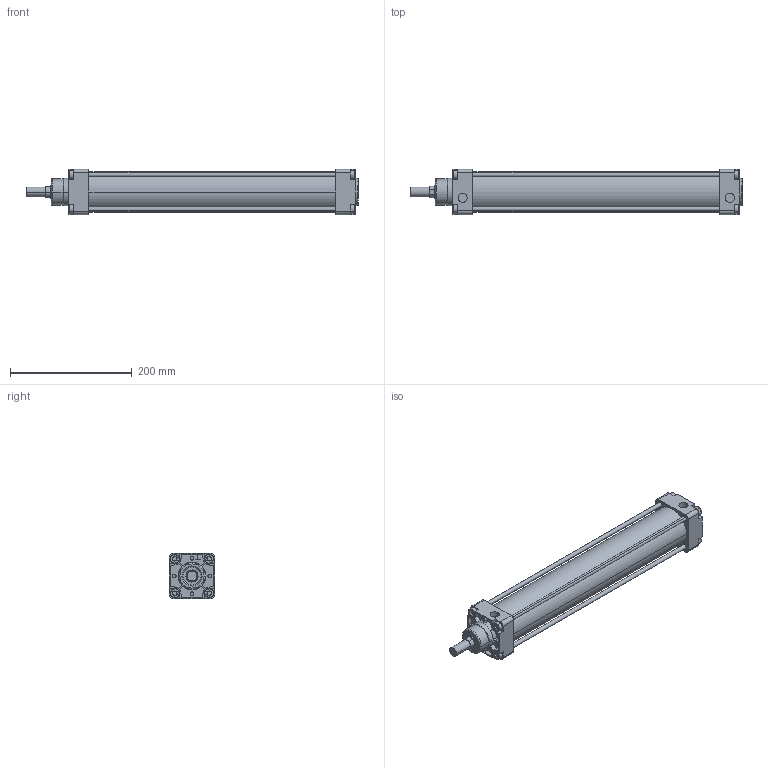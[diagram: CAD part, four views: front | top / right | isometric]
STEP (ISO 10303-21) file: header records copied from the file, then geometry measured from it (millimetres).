
FILE_DESCRIPTION(('CATIA V5 STEP Exchange'),'2;1');
FILE_NAME('D:\stp file for catalog\PNC\63\pnc 63-20-350.stp','2015-06-16T06:03:35+00:00',('none'),('none'),'Version 5-6 Release 2012','CATIA V5 STEP AP203','none');
FILE_SCHEMA(('CONFIG_CONTROL_DESIGN'));
Length unit declared in the file: millimetre
Products named in the file (1): pnc 63-20-350-00
Assembly tree (2 placements, depth 2):
  pnc 63-20-350-00
    #58
    #15151
Bounding box: 545.5 x 74.5 x 74.5 mm (x, y, z)
Volume: 872412.3 mm3; surface area: 316260.6 mm2
Topology: 6 solids, 6 shells, 572 faces, 1446 edges, 930 vertices
Faces by surface type: plane 356, cylinder 154, torus 26, cone 20, extrusion 16
Entity records: 15575 total; most frequent: CARTESIAN_POINT 3056, ORIENTED_EDGE 2892, DIRECTION 1926, EDGE_CURVE 1446, VECTOR 930, VERTEX_POINT 930, LINE 914, AXIS2_PLACEMENT_3D 732
